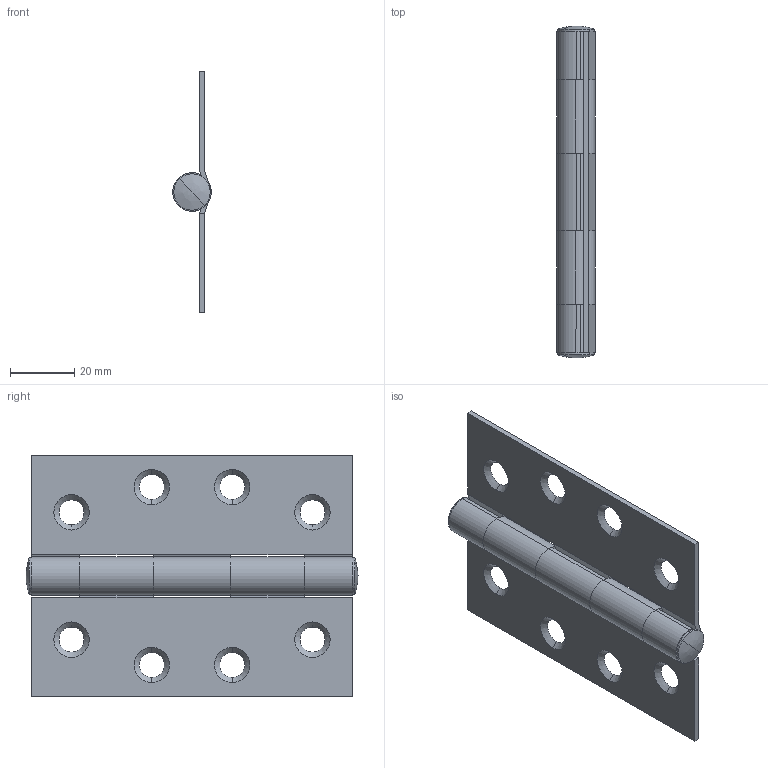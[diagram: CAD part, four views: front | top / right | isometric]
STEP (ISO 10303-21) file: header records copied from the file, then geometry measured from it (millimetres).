
FILE_DESCRIPTION (( 'STEP AP203' ), '1' );
FILE_NAME ('SBF100BS.STEP', '2020-05-26T16:23:47', ( '' ), ( '' ), 'SwSTEP 2.0', 'SolidWorks 2016', '' );
FILE_SCHEMA (( 'CONFIG_CONTROL_DESIGN' ));
Length unit declared in the file: millimetre
Products named in the file (4): SBF100BS_part_Cover_2; SBF100BS_part; SBF100BS; Pin
Assembly tree (3 placements, depth 2):
  SBF100BS
    SBF100BS_part_Cover_2
    SBF100BS_part
    Pin
Bounding box: 12 x 103.34 x 75 mm (x, y, z)
Volume: 18247 mm3; surface area: 22214.1 mm2
Topology: 3 solids, 3 shells, 96 faces, 254 edges, 162 vertices
Faces by surface type: plane 40, cylinder 36, cone 16, bspline 4
Entity records: 3444 total; most frequent: CARTESIAN_POINT 566, DIRECTION 550, ORIENTED_EDGE 500, EDGE_CURVE 250, AXIS2_PLACEMENT_3D 206, VERTEX_POINT 162, LINE 138, VECTOR 138
